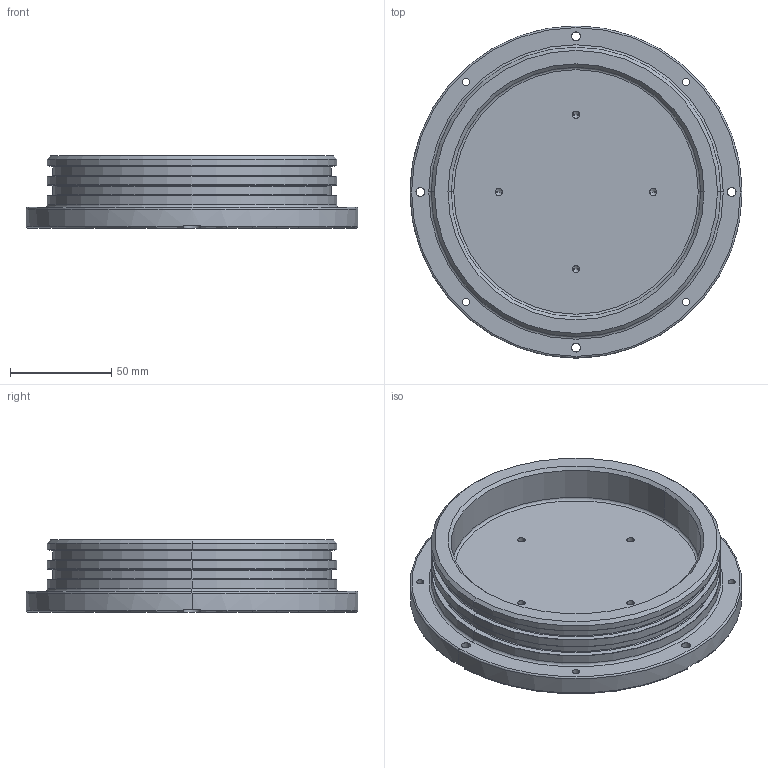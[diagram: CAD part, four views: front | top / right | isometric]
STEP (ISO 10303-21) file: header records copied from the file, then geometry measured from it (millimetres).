
FILE_DESCRIPTION (( 'STEP AP203' ), '1' );
FILE_NAME ('100222007-1 Housing B Connector Endcap_A.STEP', '2023-09-14T16:45:19', ( '' ), ( '' ), 'SwSTEP 2.0', 'SolidWorks 2023', '' );
FILE_SCHEMA (( 'CONFIG_CONTROL_DESIGN' ));
Length unit declared in the file: inch
Products named in the file (1): 100222007-1 Housing B Connector Endcap_A
Bounding box: 163.83 x 163.83 x 35.56 mm (x, y, z)
Volume: 379213.2 mm3; surface area: 69814 mm2
Topology: 1 solids, 1 shells, 213 faces, 541 edges, 340 vertices
Faces by surface type: plane 66, bspline 58, cylinder 43, torus 26, cone 20
Entity records: 10124 total; most frequent: CARTESIAN_POINT 5217, ORIENTED_EDGE 1066, DIRECTION 867, EDGE_CURVE 533, VERTEX_POINT 340, AXIS2_PLACEMENT_3D 302, VECTOR 263, LINE 263
